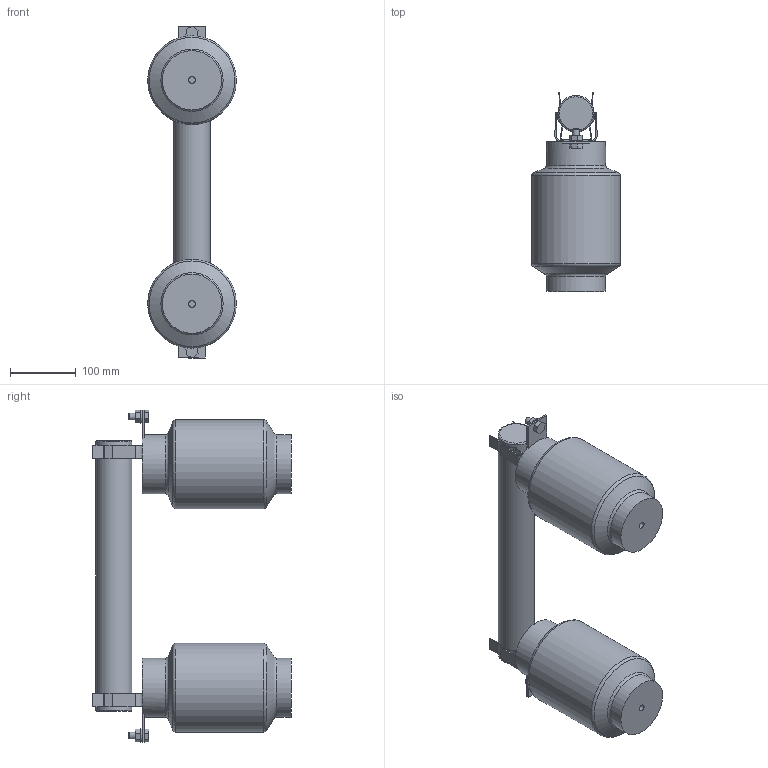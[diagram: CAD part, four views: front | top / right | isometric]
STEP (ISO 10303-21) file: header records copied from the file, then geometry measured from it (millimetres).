
FILE_DESCRIPTION (( 'STEP AP214' ), '1' );
FILE_NAME ('Ïðåäîõðàíèòåëü ÏÊÒ-101-10 Ó1.STEP', '2023-03-06T10:59:58', ( '' ), ( '' ), 'SwSTEP 2.0', 'SolidWorks 2018', '' );
FILE_SCHEMA (( 'AUTOMOTIVE_DESIGN' ));
Length unit declared in the file: millimetre
Products named in the file (1): Ïðåäîõðàíèòåëü ÏÊÒ-101-10 Ó1
Bounding box: 135 x 302.06 x 505 mm (x, y, z)
Volume: 6297940 mm3; surface area: 319176.8 mm2
Topology: 1 solids, 1 shells, 187 faces, 520 edges, 339 vertices
Faces by surface type: plane 118, cylinder 53, torus 10, cone 6
Full cylindrical faces by diameter (mm): 10 x4, 20 x2, 55 x1, 90 x4, 135 x2
Entity records: 5742 total; most frequent: DIRECTION 994, CARTESIAN_POINT 986, ORIENTED_EDGE 948, EDGE_CURVE 474, AXIS2_PLACEMENT_3D 332, VECTOR 330, LINE 330, VERTEX_POINT 324
